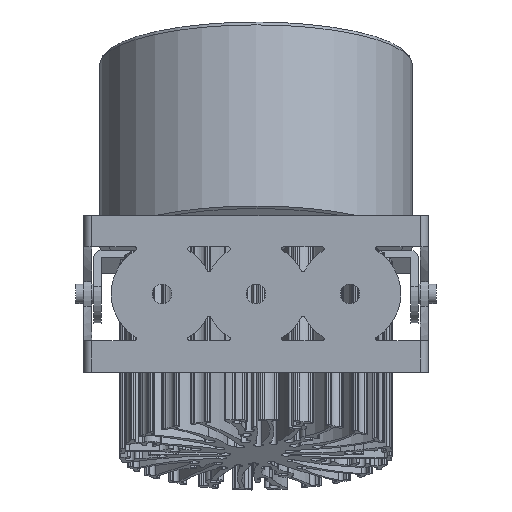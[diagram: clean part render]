
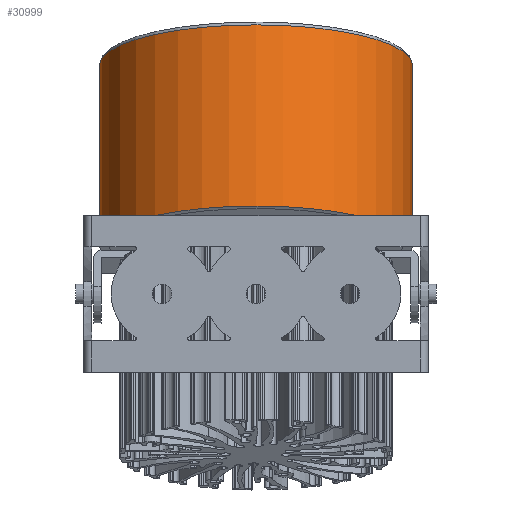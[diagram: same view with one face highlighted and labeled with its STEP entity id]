
A CAD part, front view. The second image highlights one B-rep face of the part: STEP entity #30999.
In plain terms, the highlighted cylindrical face has radius 40 mm (diameter 80 mm), a full revolution.
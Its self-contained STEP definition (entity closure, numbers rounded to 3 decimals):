
#2718=FACE_OUTER_BOUND('',#4461,.T.);
#4461=EDGE_LOOP('',(#28234,#28235,#28236,#28237));
#6083=LINE('',#107646,#7714);
#7714=VECTOR('',#42554,40.);
#9630=CIRCLE('',#34350,40.);
#9631=CIRCLE('',#34352,40.);
#14010=VERTEX_POINT('',#107641);
#14011=VERTEX_POINT('',#107644);
#18769=EDGE_CURVE('',#14010,#14010,#9630,.T.);
#18770=EDGE_CURVE('',#14011,#14011,#9631,.T.);
#18771=EDGE_CURVE('',#14011,#14010,#6083,.T.);
#28234=ORIENTED_EDGE('',*,*,#18770,.F.);
#28235=ORIENTED_EDGE('',*,*,#18771,.T.);
#28236=ORIENTED_EDGE('',*,*,#18769,.T.);
#28237=ORIENTED_EDGE('',*,*,#18771,.F.);
#29325=CYLINDRICAL_SURFACE('',#34351,40.);
#30999=ADVANCED_FACE('',(#2718),#29325,.T.);
#34350=AXIS2_PLACEMENT_3D('',#107642,#42548,#42549);
#34351=AXIS2_PLACEMENT_3D('',#107643,#42550,#42551);
#34352=AXIS2_PLACEMENT_3D('',#107645,#42552,#42553);
#42548=DIRECTION('center_axis',(0.,0.259,
0.966));
#42549=DIRECTION('ref_axis',(1.,0.,0.));
#42550=DIRECTION('center_axis',(0.,0.259,
0.966));
#42551=DIRECTION('ref_axis',(1.,0.,0.));
#42552=DIRECTION('center_axis',(0.,0.259,
0.966));
#42553=DIRECTION('ref_axis',(1.,0.,0.));
#42554=DIRECTION('',(0.,-0.259,-0.966));
#107641=CARTESIAN_POINT('',(-40.002,3.235,504.574));
#107642=CARTESIAN_POINT('Origin',(-0.002,3.235,
504.574));
#107643=CARTESIAN_POINT('Origin',(-0.002,9.434,
527.708));
#107644=CARTESIAN_POINT('',(-40.002,15.633,550.842));
#107645=CARTESIAN_POINT('Origin',(-0.002,15.633,
550.842));
#107646=CARTESIAN_POINT('',(-40.002,9.434,527.708));
